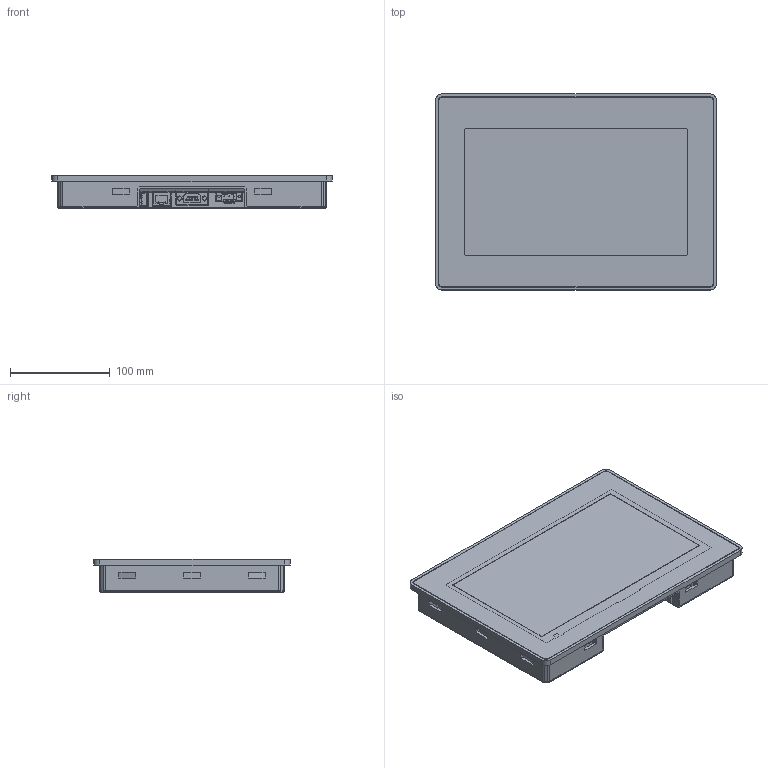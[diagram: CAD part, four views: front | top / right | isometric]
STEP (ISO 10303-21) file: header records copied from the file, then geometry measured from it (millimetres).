
FILE_DESCRIPTION (( 'STEP AP203' ), '1' );
FILE_NAME ('HMe10.STEP', '2015-02-27T15:22:54', ( '' ), ( '' ), 'SwSTEP 2.0', 'SolidWorks 2015', '' );
FILE_SCHEMA (( 'CONFIG_CONTROL_DESIGN' ));
Length unit declared in the file: millimetre
Products named in the file (1): HMe10
Bounding box: 282 x 197 x 33.95 mm (x, y, z)
Surface area: 305160.8 mm2 (no closed solid volume)
Topology: 0 solids, 73 shells, 1003 faces, 4223 edges, 3249 vertices
Faces by surface type: plane 600, cylinder 350, bspline 42, cone 11
Entity records: 47314 total; most frequent: CARTESIAN_POINT 13274, DIRECTION 6727, ORIENTED_EDGE 6081, EDGE_CURVE 4223, VERTEX_POINT 3249, LINE 3101, VECTOR 3101, AXIS2_PLACEMENT_3D 1813
